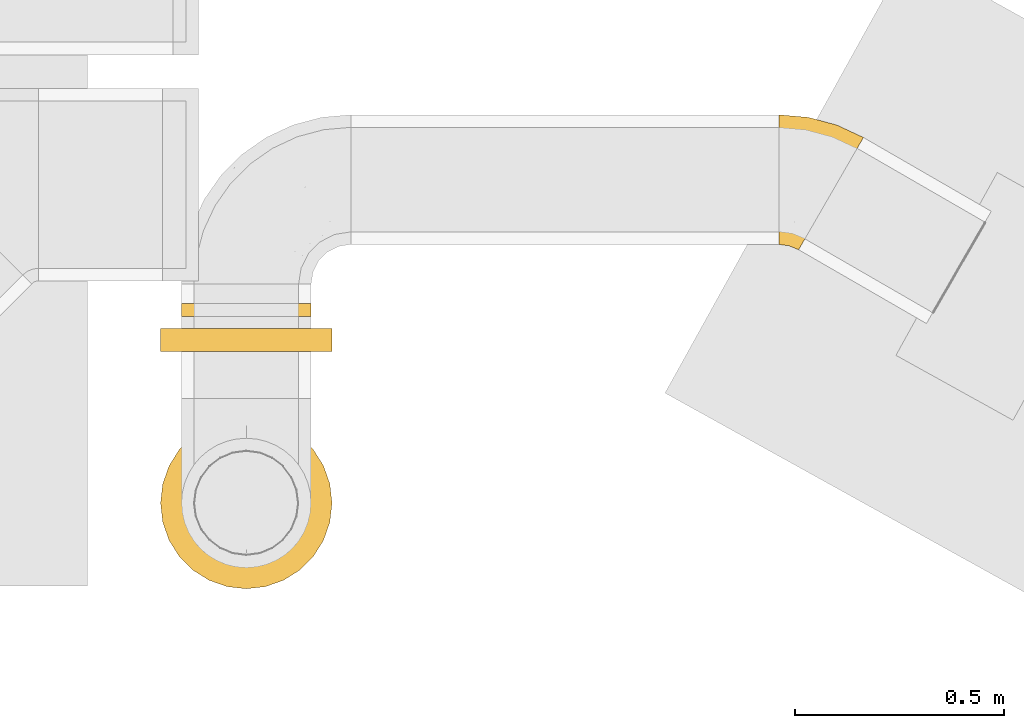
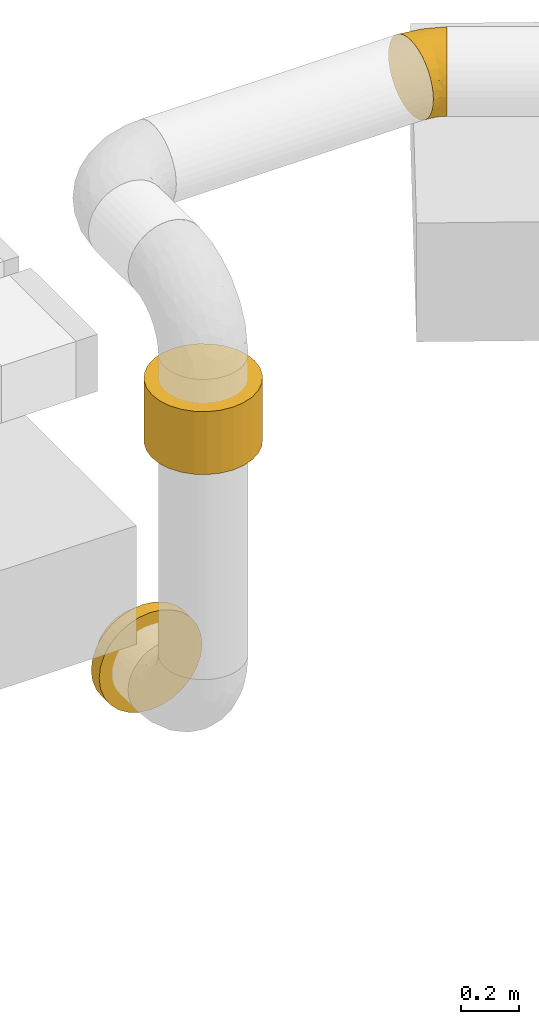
# One storey, part 2 of 9: 4 coverings.
"""IFC2X3 building model written with IfcOpenShell, lengths in millimetres."""

from ifc_helpers import new_model, entity, si_unit, converted_unit, derived_unit, direction, frame, origin_with_axes, place, context, subcontext, project, spatial, open_shell, surface_model, source, transform, mapped, element, save


model = new_model("IFC2X3")

# Units and contexts
model_context = context("Model", 3, precision=0.01, world=frame((0.0, 4.29681676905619e-09, 0.0)), true_north=direction((4.01073788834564e-13, 1.0)))
plan_context = context("Plan", 3, precision=0.01, world=frame((0.0, 4.29681676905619e-09, 0.0)), true_north=direction((4.01073788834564e-13, 1.0)))
body_context = subcontext(model_context, "Body", "Model", "MODEL_VIEW")
ifc_project = project(units=[converted_unit("PLANEANGLEUNIT", "DEGREE", entity("IfcPositiveLengthMeasure", 0.0174532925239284), si_unit("PLANEANGLEUNIT", "RADIAN"), dimensions=[0, 0, 0, 0, 0, 0, 0]), si_unit("AREAUNIT", "SQUARE_METRE"), si_unit("LENGTHUNIT", "METRE", prefix="MILLI"), si_unit("MASSUNIT", "GRAM", prefix="KILO"), si_unit("POWERUNIT", "WATT"), si_unit("PRESSUREUNIT", "PASCAL"), si_unit("FORCEUNIT", "NEWTON", prefix="KILO"), si_unit("ELECTRICVOLTAGEUNIT", "VOLT"), si_unit("ELECTRICCURRENTUNIT", "AMPERE"), si_unit("THERMODYNAMICTEMPERATUREUNIT", "DEGREE_CELSIUS"), si_unit("TIMEUNIT", "SECOND"), si_unit("VOLUMEUNIT", "CUBIC_METRE"), derived_unit("LINEARVELOCITYUNIT", [(si_unit("LENGTHUNIT", "METRE"), 1), (si_unit("TIMEUNIT", "SECOND"), -1)]), derived_unit("VOLUMETRICFLOWRATEUNIT", [(si_unit("VOLUMEUNIT", "CUBIC_METRE"), 1), (si_unit("TIMEUNIT", "SECOND"), -1)]), derived_unit("THERMALTRANSMITTANCEUNIT", [(si_unit("POWERUNIT", "WATT"), 1), (si_unit("THERMODYNAMICTEMPERATUREUNIT", "KELVIN"), -1), (si_unit("AREAUNIT", "SQUARE_METRE"), -1)]), derived_unit("SOUNDPRESSUREUNIT", [(si_unit("PRESSUREUNIT", "PASCAL"), 1)])], contexts=[model_context, plan_context])

# Site, building, storey
site_placement = place(None, frame((0.0, -4.29681676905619e-09, 0.0), z_axis=(0.0, 0.0, 1.0), x_axis=(1.0, 0.0, 0.0)))
site = spatial("IfcSite", under=ifc_project, at=site_placement, CompositionType="ELEMENT")
building_placement = place(site_placement, frame((0.0, 4.29681676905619e-09, 0.0), z_axis=(0.0, 0.0, 1.0), x_axis=(1.0, 0.0, 0.0)))
building = spatial("IfcBuilding", under=site, at=building_placement, Name="mc-building", CompositionType="ELEMENT")
storey_placement = place(building_placement, frame((0.0, 0.0, 210200.0), z_axis=(0.0, 0.0, 1.0), x_axis=(1.0, 0.0, 0.0)))
storey = spatial("IfcBuildingStorey", under=building, at=storey_placement, Name="Nivå F -0,7m", CompositionType="ELEMENT", Elevation=210200.0)

# Coverings
shared_shape_1 = source(origin_with_axes(), body_context, "Body", "SurfaceModel", [
    surface_model("IfcShellBasedSurfaceModel", [(132.5, 88.94617, -184.69861), (132.5, 0.0, -205.0), (132.5, 45.61679, -199.86022), (132.5, 127.81541, -160.27545), (132.5, 160.27545, -127.81541), (132.5, 199.86022, -45.61679), (132.5, -160.27545, -127.81541), (132.5, 184.69861, -88.94617), (132.5, 199.86022, 45.61679), (132.5, -45.61679, -199.86022), (132.5, -127.81541, -160.27545), (132.5, -88.94617, -184.69861), (132.5, -205.0, 0.0), (132.5, -199.86022, -45.61679), (132.5, -184.69861, -88.94617), (132.5, 205.0, 0.0), (132.5, 184.69861, 88.94617), (132.5, 160.27545, 127.81541), (132.5, 88.94617, 184.69861), (132.5, 45.61679, 199.86022), (132.5, 0.0, 205.0), (132.5, 127.81541, 160.27545), (132.5, -184.69861, 88.94617), (132.5, -199.86022, 45.61679), (132.5, -45.61679, 199.86022), (132.5, -88.94617, 184.69861), (132.5, -127.81541, 160.27545), (132.5, -160.27545, 127.81541), (-132.5, 0.0, 205.0), (-132.5, 45.61679, 199.86022), (-132.5, 88.94617, 184.69861), (-132.5, -160.27545, 127.81541), (-132.5, 184.69861, 88.94617), (-132.5, 199.86022, 45.61679), (-132.5, 160.27545, 127.81541), (-132.5, 127.81541, 160.27545), (-132.5, 199.86022, -45.61679), (-132.5, -184.69861, 88.94617), (-132.5, -45.61679, 199.86022), (-132.5, -127.81541, 160.27545), (-132.5, -88.94617, 184.69861), (-132.5, -205.0, 0.0), (-132.5, -199.86022, 45.61679), (-132.5, -184.69861, -88.94617), (-132.5, 160.27545, -127.81541), (-132.5, 184.69861, -88.94617), (-132.5, 127.81541, -160.27545), (-132.5, 88.94617, -184.69861), (-132.5, -160.27545, -127.81541), (-132.5, 45.61679, -199.86022), (-132.5, -199.86022, -45.61679), (-132.5, 0.0, -205.0), (-132.5, -45.61679, -199.86022), (-132.5, -127.81541, -160.27545), (-132.5, -88.94617, -184.69861), (-132.5, 205.0, 0.0)], [open_shell([[[0, 1, 2]], [[3, 1, 0]], [[4, 5, 6]], [[4, 7, 5]], [[4, 1, 3]], [[8, 6, 5]], [[9, 10, 11]], [[10, 9, 1]], [[10, 1, 6]], [[12, 13, 14]], [[4, 6, 1]], [[14, 6, 12]], [[8, 5, 15]], [[8, 16, 17]], [[8, 17, 18]], [[8, 18, 12]], [[19, 20, 18]], [[18, 17, 21]], [[22, 18, 20]], [[12, 22, 23]], [[12, 18, 22]], [[24, 25, 26]], [[27, 20, 26]], [[27, 22, 20]], [[26, 20, 24]], [[8, 12, 6]], [[28, 29, 30]], [[31, 28, 30]], [[32, 33, 34]], [[34, 33, 30]], [[30, 35, 34]], [[36, 37, 30]], [[38, 39, 40]], [[38, 28, 39]], [[28, 31, 39]], [[41, 42, 37]], [[37, 31, 30]], [[37, 43, 41]], [[36, 30, 33]], [[37, 36, 44]], [[44, 36, 45]], [[44, 46, 47]], [[48, 37, 47]], [[47, 37, 44]], [[48, 47, 49]], [[41, 43, 50]], [[48, 43, 37]], [[51, 52, 53]], [[54, 53, 52]], [[51, 53, 48]], [[49, 51, 48]], [[36, 33, 55]], [[55, 33, 15]], [[33, 32, 16]], [[16, 32, 34]], [[8, 15, 33]], [[17, 16, 34]], [[8, 33, 16]], [[34, 35, 17]], [[21, 35, 30]], [[18, 30, 29]], [[19, 29, 28]], [[21, 30, 18]], [[18, 29, 19]], [[28, 20, 19]], [[35, 21, 17]], [[20, 28, 38]], [[24, 38, 40]], [[25, 40, 39]], [[20, 38, 24]], [[24, 40, 25]], [[39, 26, 25]], [[39, 31, 26]], [[27, 31, 37]], [[22, 37, 42]], [[23, 42, 41]], [[27, 37, 22]], [[22, 42, 23]], [[41, 12, 23]], [[31, 27, 26]], [[12, 41, 50]], [[13, 50, 43]], [[14, 43, 48]], [[12, 50, 13]], [[13, 43, 14]], [[48, 6, 14]], [[48, 53, 6]], [[10, 53, 54]], [[11, 54, 52]], [[9, 52, 51]], [[10, 54, 11]], [[11, 52, 9]], [[51, 1, 9]], [[53, 10, 6]], [[1, 51, 49]], [[2, 49, 47]], [[0, 47, 46]], [[1, 49, 2]], [[2, 47, 0]], [[46, 3, 0]], [[46, 44, 3]], [[4, 44, 45]], [[7, 45, 36]], [[5, 36, 55]], [[4, 45, 7]], [[7, 36, 5]], [[55, 15, 5]], [[44, 4, 3]]])]),
])
covering_1_placement = place(storey_placement, frame((524180.93348, 455661.93875, 3436.87533000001), z_axis=(0.0, 1.0, 0.0), x_axis=(0.0, 0.0, -1.0)))
element("IfcCovering", 1, at=covering_1_placement, inside=storey, Name="B=EI60 80", PredefinedType="INSULATION", context=body_context, shape_type="MappedRepresentation", body=[
    mapped(shared_shape_1, transform((0.0, 0.0, 0.0), scale=1.0)),
])
shared_shape_2 = source(origin_with_axes(), body_context, "Body", "SurfaceModel", [
    surface_model("IfcShellBasedSurfaceModel", [(-14.81364, 159.63257, 53.0122), (-9.10354, 149.74239, 77.50252), (-18.31021, 165.68881, 26.91195), (107.82969, -52.79191, -118.73529), (96.76382, -33.62524, -134.23266), (84.51868, -12.41605, -145.65278), (71.46844, 10.18763, -152.6459), (58.0127, 33.49365, -155.0), (134.33565, -98.70158, 26.91148), (135.5127, -100.74029, 0.0), (134.33561, -98.70151, -26.91195), (-66.9873, 77.5, -134.23394), (-66.9873, 134.23394, -77.5), (-66.9873, 109.60155, -109.60155), (-66.9873, 109.60155, 109.60155), (-66.9873, 40.11695, 149.7185), (-66.9873, 77.5, 134.23394), (84.51881, -12.41627, 145.65269), (71.46868, 10.18721, 152.64582), (3.42193, -22.89784, 151.69563), (-66.9873, -149.7185, 40.11695), (-66.9873, -155.0, 0.0), (3.34021, -148.84714, 0.0), (34.29058, -127.97066, 63.70327), (29.08628, -98.58903, 107.58049), (-66.9873, -134.23394, 77.5), (130.83909, -92.64536, 53.01196), (125.12903, -82.75524, 77.50222), (-66.9873, -77.5, 134.23394), (-66.9873, -109.60155, 109.60155), (37.03182, -138.20467, 30.84929), (71.53086, -130.57551, 0.0), (15.49695, -57.83075, 138.94841), (-66.9873, -40.11695, 149.7185), (-23.57525, 3.79806, 155.0), (-66.9873, 0.0, 155.0), (107.82997, -52.7924, 118.73482), (96.76396, -33.6255, 134.23249), (18.51774, 15.07684, 155.0), (117.38034, -69.33413, 99.63399), (58.0127, 33.49365, 155.0), (-66.9873, 134.23394, 77.5), (-37.3296, 122.13178, 99.63143), (-38.64046, 144.20928, 65.5067), (-25.29356, 94.39545, 126.96712), (-13.00009, 48.517, 149.36618), (8.19571, 119.77921, 118.73529), (-52.49778, 154.25486, 23.78185), (-35.95377, 156.33294, 33.54854), (-42.39949, 158.23705, 0.0), (-66.9873, 149.7185, 40.11695), (-66.9873, 155.0, 0.0), (44.55696, 56.79967, 152.6459), (-1.35471, 136.32102, 99.63454), (19.26159, 100.61255, 134.23266), (31.50672, 79.40336, 145.65278), (-19.4873, 167.72759, 0.0), (-50.41797, 153.46527, -30.07825), (-47.92805, 144.91575, -59.31592), (-66.9873, 149.7185, -40.11695), (-66.9873, 40.11695, -149.7185), (-10.55519, 39.39252, -151.66859), (-23.57525, 3.79806, -155.0), (-35.14431, 131.15929, -88.90642), (-33.01276, 103.51983, -118.73744), (-1.35494, 136.32143, -99.63399), (-33.54729, 155.45897, -40.11439), (-66.9873, 0.0, -155.0), (-19.23645, 71.79328, -140.4773), (-18.31025, 165.68889, -26.91148), (18.51774, 15.07684, -155.0), (-14.81369, 159.63266, -53.01196), (-30.09482, 146.11595, -67.02432), (-9.10363, 149.74254, -77.50222), (8.19543, 119.7797, -118.73482), (44.55672, 56.80008, -152.64582), (31.5066, 79.40357, -145.65269), (19.26144, 100.6128, -134.23249), (3.42196, -22.89784, -151.69563), (15.49674, -57.83054, -138.94854), (-66.9873, -40.11695, -149.7185), (-66.9873, -149.7185, -40.11695), (-66.9873, -134.23394, -77.5), (34.29066, -127.9705, -63.70354), (-66.9873, -77.5, -134.23394), (29.08615, -98.58855, -107.58101), (-66.9873, -109.60155, -109.60155), (37.03181, -138.20465, -30.84945), (117.38011, -69.33372, -99.63454), (125.12894, -82.7551, -77.50252), (130.83904, -92.64528, -53.0122)], [open_shell([[[0, 1, 2]], [[3, 4, 5]], [[6, 7, 5]], [[8, 9, 10]], [[11, 12, 13]], [[14, 15, 16]], [[17, 18, 19]], [[20, 21, 22]], [[23, 24, 25]], [[26, 27, 23]], [[28, 29, 24]], [[8, 30, 31]], [[24, 29, 25]], [[24, 32, 28]], [[32, 19, 33]], [[34, 35, 19]], [[36, 37, 32]], [[35, 33, 19]], [[38, 34, 19]], [[25, 20, 23]], [[33, 28, 32]], [[38, 19, 18]], [[31, 30, 22]], [[20, 30, 23]], [[27, 24, 23]], [[39, 24, 27]], [[26, 23, 30]], [[8, 31, 9]], [[20, 22, 30]], [[32, 17, 19]], [[40, 38, 18]], [[24, 36, 32]], [[17, 32, 37]], [[39, 36, 24]], [[26, 30, 8]], [[41, 42, 43]], [[15, 35, 34]], [[44, 16, 45]], [[45, 34, 38]], [[42, 44, 46]], [[16, 15, 45]], [[47, 48, 49]], [[50, 47, 51]], [[50, 41, 43]], [[52, 45, 38]], [[42, 14, 44]], [[47, 43, 48]], [[51, 47, 49]], [[45, 15, 34]], [[42, 46, 53]], [[46, 44, 54]], [[52, 55, 45]], [[44, 45, 54]], [[0, 48, 43]], [[14, 16, 44]], [[40, 52, 38]], [[41, 14, 42]], [[1, 0, 43]], [[2, 48, 0]], [[49, 48, 56]], [[43, 47, 50]], [[2, 56, 48]], [[45, 55, 54]], [[42, 1, 43]], [[1, 42, 53]], [[57, 58, 59]], [[51, 49, 57]], [[58, 12, 59]], [[60, 61, 62]], [[63, 12, 58]], [[13, 63, 64]], [[64, 63, 65]], [[58, 57, 66]], [[67, 60, 62]], [[11, 64, 68]], [[60, 68, 61]], [[68, 60, 11]], [[49, 69, 66]], [[62, 61, 70]], [[49, 66, 57]], [[71, 72, 66]], [[66, 69, 71]], [[65, 63, 73]], [[64, 65, 74]], [[72, 71, 73]], [[66, 72, 58]], [[75, 61, 76]], [[13, 12, 63]], [[56, 69, 49]], [[61, 68, 76]], [[77, 76, 68]], [[11, 13, 64]], [[7, 70, 75]], [[51, 57, 59]], [[73, 63, 72]], [[75, 70, 61]], [[72, 63, 58]], [[64, 77, 68]], [[77, 64, 74]], [[78, 79, 80]], [[81, 82, 83]], [[84, 85, 86]], [[67, 78, 80]], [[62, 78, 67]], [[85, 84, 79]], [[21, 81, 22]], [[85, 82, 86]], [[82, 85, 83]], [[87, 81, 83]], [[85, 88, 89]], [[70, 6, 78]], [[79, 78, 5]], [[85, 79, 3]], [[4, 79, 5]], [[88, 85, 3]], [[90, 83, 89]], [[89, 83, 85]], [[70, 78, 62]], [[31, 22, 87]], [[10, 9, 31]], [[81, 87, 22]], [[80, 79, 84]], [[87, 10, 31]], [[87, 83, 90]], [[90, 10, 87]], [[78, 6, 5]], [[6, 70, 7]], [[79, 4, 3]], [[2, 69, 56]], [[2, 1, 53]], [[46, 55, 76]], [[46, 54, 55]], [[46, 71, 2]], [[53, 46, 2]], [[52, 75, 55]], [[76, 73, 71]], [[76, 65, 73]], [[69, 2, 71]], [[77, 74, 76]], [[46, 76, 71]], [[76, 74, 65]], [[76, 55, 75]], [[7, 75, 52]], [[52, 40, 7]], [[40, 18, 37]], [[17, 37, 18]], [[40, 37, 36]], [[10, 36, 39]], [[27, 26, 8]], [[39, 27, 10]], [[40, 36, 10]], [[27, 8, 10]], [[3, 5, 7]], [[10, 88, 3]], [[10, 89, 88]], [[89, 10, 90]], [[40, 10, 3]], [[3, 7, 40]], [[51, 59, 12]], [[50, 51, 12]], [[50, 12, 11]], [[29, 14, 11]], [[50, 14, 41]], [[50, 11, 14]], [[35, 15, 29]], [[15, 14, 29]], [[67, 11, 60]], [[81, 67, 80]], [[81, 80, 84]], [[86, 82, 81]], [[86, 81, 84]], [[67, 81, 29]], [[33, 29, 28]], [[35, 29, 33]], [[29, 20, 25]], [[29, 81, 20]], [[21, 20, 81]], [[29, 11, 67]]])]),
])
covering_2_placement = place(storey_placement, frame((525521.31986, 456435.47356, 3920.0), z_axis=(0.0, 0.0, 1.0), x_axis=(-0.866025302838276, 0.500000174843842, 0.0)))
element("IfcCovering", 2, at=covering_2_placement, inside=storey, Name="EI30-30", PredefinedType="INSULATION", context=body_context, shape_type="MappedRepresentation", body=[
    mapped(shared_shape_2, transform((0.0, 0.0, 0.0), scale=1.0)),
])
shared_shape_3 = source(origin_with_axes(), body_context, "Body", "SurfaceModel", [
    surface_model("IfcShellBasedSurfaceModel", [(27.5, 88.94617, -184.69861), (27.5, 0.0, -205.0), (27.5, 45.61679, -199.86022), (27.5, 127.81541, -160.27545), (27.5, 160.27545, -127.81541), (27.5, 199.86022, -45.61679), (27.5, -160.27545, -127.81541), (27.5, 184.69861, -88.94617), (27.5, 199.86022, 45.61679), (27.5, -45.61679, -199.86022), (27.5, -127.81541, -160.27545), (27.5, -88.94617, -184.69861), (27.5, -205.0, 0.0), (27.5, -199.86022, -45.61679), (27.5, -184.69861, -88.94617), (27.5, 205.0, 0.0), (27.5, 184.69861, 88.94617), (27.5, 160.27545, 127.81541), (27.5, 88.94617, 184.69861), (27.5, 45.61679, 199.86022), (27.5, 0.0, 205.0), (27.5, 127.81541, 160.27545), (27.5, -184.69861, 88.94617), (27.5, -199.86022, 45.61679), (27.5, -45.61679, 199.86022), (27.5, -88.94617, 184.69861), (27.5, -127.81541, 160.27545), (27.5, -160.27545, 127.81541), (-27.5, 0.0, 205.0), (-27.5, 45.61679, 199.86022), (-27.5, 88.94617, 184.69861), (-27.5, -160.27545, 127.81541), (-27.5, 184.69861, 88.94617), (-27.5, 199.86022, 45.61679), (-27.5, 160.27545, 127.81541), (-27.5, 127.81541, 160.27545), (-27.5, 199.86022, -45.61679), (-27.5, -184.69861, 88.94617), (-27.5, -45.61679, 199.86022), (-27.5, -127.81541, 160.27545), (-27.5, -88.94617, 184.69861), (-27.5, -205.0, 0.0), (-27.5, -199.86022, 45.61679), (-27.5, -184.69861, -88.94617), (-27.5, 160.27545, -127.81541), (-27.5, 184.69861, -88.94617), (-27.5, 127.81541, -160.27545), (-27.5, 88.94617, -184.69861), (-27.5, -160.27545, -127.81541), (-27.5, 45.61679, -199.86022), (-27.5, -199.86022, -45.61679), (-27.5, 0.0, -205.0), (-27.5, -45.61679, -199.86022), (-27.5, -127.81541, -160.27545), (-27.5, -88.94617, -184.69861), (-27.5, 205.0, 0.0)], [open_shell([[[0, 1, 2]], [[3, 1, 0]], [[4, 5, 6]], [[4, 7, 5]], [[4, 1, 3]], [[8, 6, 5]], [[9, 10, 11]], [[10, 9, 1]], [[10, 1, 6]], [[12, 13, 14]], [[4, 6, 1]], [[14, 6, 12]], [[8, 5, 15]], [[8, 16, 17]], [[8, 17, 18]], [[8, 18, 12]], [[19, 20, 18]], [[18, 17, 21]], [[22, 18, 20]], [[12, 22, 23]], [[12, 18, 22]], [[24, 25, 26]], [[27, 20, 26]], [[27, 22, 20]], [[26, 20, 24]], [[8, 12, 6]], [[28, 29, 30]], [[31, 28, 30]], [[32, 33, 34]], [[34, 33, 30]], [[30, 35, 34]], [[36, 37, 30]], [[38, 39, 40]], [[38, 28, 39]], [[28, 31, 39]], [[41, 42, 37]], [[37, 31, 30]], [[37, 43, 41]], [[36, 30, 33]], [[37, 36, 44]], [[44, 36, 45]], [[44, 46, 47]], [[48, 37, 47]], [[47, 37, 44]], [[48, 47, 49]], [[41, 43, 50]], [[48, 43, 37]], [[51, 52, 53]], [[54, 53, 52]], [[51, 53, 48]], [[49, 51, 48]], [[36, 33, 55]], [[8, 55, 33]], [[33, 32, 16]], [[34, 17, 32]], [[15, 55, 8]], [[16, 8, 33]], [[17, 16, 32]], [[34, 21, 17]], [[18, 35, 30]], [[30, 29, 18]], [[28, 19, 29]], [[18, 21, 35]], [[19, 18, 29]], [[28, 20, 19]], [[35, 21, 34]], [[24, 28, 38]], [[38, 40, 25]], [[39, 26, 40]], [[20, 28, 24]], [[25, 24, 38]], [[26, 25, 40]], [[39, 27, 26]], [[22, 31, 37]], [[42, 41, 23]], [[22, 37, 42]], [[22, 27, 31]], [[12, 23, 41]], [[22, 42, 23]], [[31, 27, 39]], [[13, 41, 50]], [[50, 43, 14]], [[48, 6, 43]], [[12, 41, 13]], [[14, 13, 50]], [[6, 14, 43]], [[48, 10, 6]], [[11, 53, 54]], [[54, 52, 9]], [[51, 1, 52]], [[10, 53, 11]], [[9, 11, 54]], [[1, 9, 52]], [[53, 10, 48]], [[2, 51, 49]], [[49, 47, 0]], [[46, 3, 47]], [[1, 51, 2]], [[0, 2, 49]], [[3, 0, 47]], [[46, 4, 3]], [[7, 44, 45]], [[45, 36, 5]], [[55, 15, 36]], [[4, 44, 7]], [[5, 7, 45]], [[15, 5, 36]], [[44, 4, 46]]])]),
])
covering_3_placement = place(storey_placement, frame((524180.93348, 456052.14055, 2156.11027999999), z_axis=(0.0, 0.0, 1.0), x_axis=(0.0, -1.0, 0.0)))
element("IfcCovering", 3, at=covering_3_placement, inside=storey, Name="B=EI60 80", PredefinedType="INSULATION", context=body_context, shape_type="MappedRepresentation", body=[
    mapped(shared_shape_3, transform((0.0, 0.0, 0.0), scale=1.0)),
])
shared_shape_4 = source(origin_with_axes(), body_context, "Body", "SurfaceModel", [
    surface_model("IfcShellBasedSurfaceModel", [(25.0, 0.0, 155.0), (25.0, -40.11695, 149.7185), (25.0, -77.5, 134.23394), (25.0, -109.60155, 109.60155), (25.0, -134.23394, 77.5), (25.0, -149.7185, 40.11695), (25.0, 40.11695, 149.7185), (25.0, 109.60155, 109.60155), (25.0, 77.5, 134.23394), (25.0, 134.23394, 77.5), (25.0, 155.0, 0.0), (25.0, 149.7185, 40.11695), (25.0, -77.5, -134.23394), (25.0, -134.23394, -77.5), (25.0, -109.60155, -109.60155), (25.0, 77.5, -134.23394), (25.0, 0.0, -155.0), (25.0, 40.11695, -149.7185), (-6.096, -134.23394, -77.5), (-6.096, -40.11695, -149.7185), (-6.096, -77.5, -134.23394), (-6.096, -109.60155, -109.60155), (-6.096, 77.5, -134.23394), (-6.096, -149.7185, -40.11695), (-6.096, 0.0, -155.0), (-6.096, 155.0, 0.0), (-6.096, 40.11695, -149.7185), (-6.096, 109.60155, -109.60155), (-6.096, 149.7185, -40.11695), (-6.096, 134.23394, -77.5), (-6.096, -155.0, 0.0), (-6.096, -149.7185, 40.11695), (-6.096, -134.23394, 77.5), (-6.096, -109.60155, 109.60155), (-6.096, 0.0, 155.0), (-6.096, -77.5, 134.23394), (-6.096, -40.11695, 149.7185), (-6.096, 40.11695, 149.7185), (-6.096, 134.23394, 77.5), (-6.096, 149.7185, 40.11695), (-6.096, 109.60155, 109.60155), (-6.096, 77.5, 134.23394), (25.0, 149.7185, -40.11695), (25.0, -149.7185, -40.11695), (25.0, -40.11695, -149.7185), (25.0, 109.60155, -109.60155), (25.0, 134.23394, -77.5), (25.0, -155.0, 0.0)], [open_shell([[[0, 1, 2]], [[3, 4, 5]], [[6, 7, 8]], [[7, 6, 9]], [[9, 10, 11]], [[12, 13, 14]], [[15, 16, 17]], [[18, 19, 20]], [[18, 20, 21]], [[22, 18, 23]], [[18, 24, 19]], [[25, 22, 23]], [[24, 22, 26]], [[24, 18, 22]], [[27, 28, 29]], [[28, 27, 22]], [[22, 25, 28]], [[25, 23, 30]], [[31, 32, 33]], [[31, 33, 34]], [[35, 36, 34]], [[35, 34, 33]], [[31, 34, 37]], [[25, 38, 39]], [[38, 25, 37]], [[40, 37, 41]], [[37, 40, 38]], [[25, 31, 37]], [[31, 25, 30]], [[0, 2, 5]], [[3, 5, 2]], [[10, 0, 42]], [[10, 9, 6]], [[6, 0, 10]], [[0, 5, 42]], [[42, 5, 43]], [[13, 42, 43]], [[12, 44, 13]], [[44, 15, 13]], [[42, 45, 46]], [[45, 42, 15]], [[15, 42, 13]], [[44, 16, 15]], [[43, 5, 47]], [[31, 47, 5]], [[32, 5, 4]], [[30, 47, 31]], [[32, 31, 5]], [[33, 32, 4]], [[4, 3, 33]], [[1, 0, 36]], [[35, 2, 36]], [[2, 35, 3]], [[36, 2, 1]], [[0, 34, 36]], [[3, 35, 33]], [[37, 0, 6]], [[41, 6, 8]], [[34, 0, 37]], [[41, 37, 6]], [[40, 41, 8]], [[8, 7, 40]], [[38, 7, 9]], [[39, 9, 11]], [[38, 9, 39]], [[25, 39, 11]], [[10, 25, 11]], [[7, 38, 40]], [[28, 10, 42]], [[29, 42, 46]], [[25, 10, 28]], [[29, 28, 42]], [[27, 29, 46]], [[46, 45, 27]], [[22, 45, 15]], [[26, 15, 17]], [[22, 15, 26]], [[24, 26, 17]], [[16, 24, 17]], [[45, 22, 27]], [[19, 16, 44]], [[20, 44, 12]], [[24, 16, 19]], [[20, 19, 44]], [[21, 20, 12]], [[12, 14, 21]], [[18, 14, 13]], [[23, 13, 43]], [[18, 13, 23]], [[30, 23, 43]], [[47, 30, 43]], [[14, 18, 21]]])]),
])
covering_4_placement = place(storey_placement, frame((524180.93348, 456133.17026, 2156.11027999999), z_axis=(-1.0, 0.0, 0.0), x_axis=(0.0, -1.0, 0.0)))
element("IfcCovering", 4, at=covering_4_placement, inside=storey, Name="EI30-30", PredefinedType="INSULATION", context=body_context, shape_type="MappedRepresentation", body=[
    mapped(shared_shape_4, transform((0.0, 0.0, 0.0), scale=1.0)),
])

save(model, "model.ifc")
